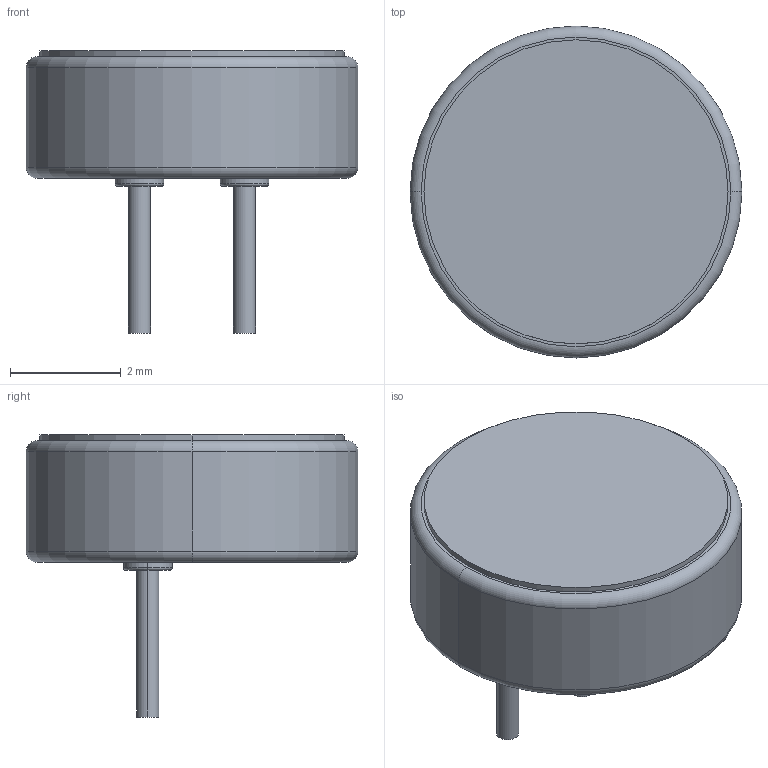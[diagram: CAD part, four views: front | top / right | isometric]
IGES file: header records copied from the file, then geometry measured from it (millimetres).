
Global section: file name: No Iges File Name specified; native system: Autodesk Inventor 2011; preprocessor: AutoDesk Inventor Iges Exporter R2011; author: Dunn; date: 20120110.170059; units: millimetre
Bounding box: 6 x 6 x 5.1 mm (x, y, z)
Volume: 17.6 mm3; surface area: 190 mm2
Topology: 1 solids, 4 shells, 78 faces, 148 edges, 94 vertices
Faces by surface type: revolution 24, plane 24, cylinder 16, torus 14
